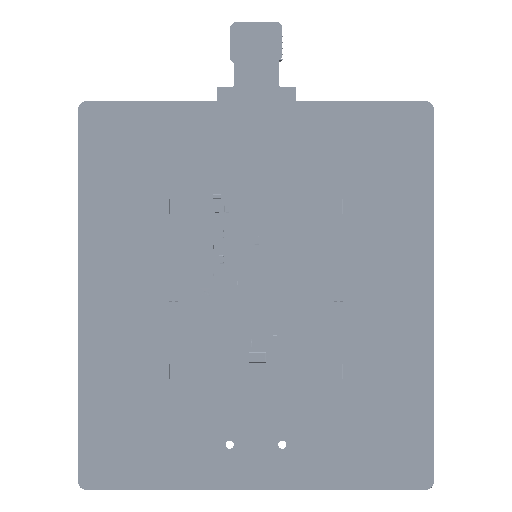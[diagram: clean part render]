
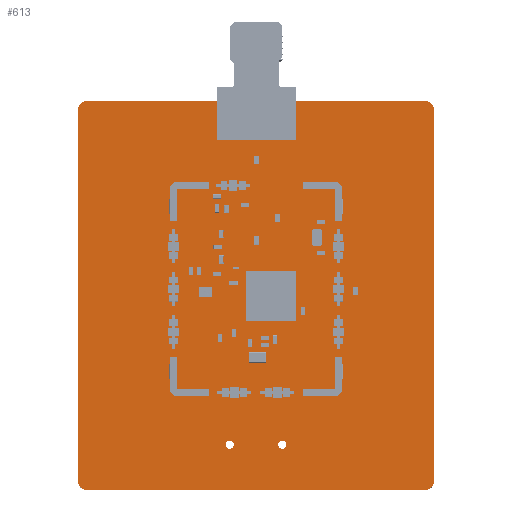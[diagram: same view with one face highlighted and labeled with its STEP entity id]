
A CAD part, top view. The second image highlights one B-rep face of the part: STEP entity #613.
In plain terms, the highlighted planar face has unit normal (0, 0, 1).
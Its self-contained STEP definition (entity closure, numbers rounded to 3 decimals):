
#276 = VERTEX_POINT('',#277);
#277 = CARTESIAN_POINT('',(0.,1.,1.56));
#283 = EDGE_CURVE('',#276,#284,#286,.T.);
#284 = VERTEX_POINT('',#285);
#285 = CARTESIAN_POINT('',(1.,0.,1.56));
#286 = CIRCLE('',#287,1.);
#287 = AXIS2_PLACEMENT_3D('',#288,#289,#290);
#288 = CARTESIAN_POINT('',(1.,1.,1.56));
#289 = DIRECTION('',(0.,0.,1.));
#290 = DIRECTION('',(-1.,0.,0.));
#316 = EDGE_CURVE('',#284,#317,#319,.T.);
#317 = VERTEX_POINT('',#318);
#318 = CARTESIAN_POINT('',(42.,0.,1.56));
#319 = LINE('',#320,#321);
#320 = CARTESIAN_POINT('',(1.,0.,1.56));
#321 = VECTOR('',#322,1.);
#322 = DIRECTION('',(1.,0.,0.));
#347 = EDGE_CURVE('',#317,#348,#350,.T.);
#348 = VERTEX_POINT('',#349);
#349 = CARTESIAN_POINT('',(43.,1.,1.56));
#350 = CIRCLE('',#351,1.);
#351 = AXIS2_PLACEMENT_3D('',#352,#353,#354);
#352 = CARTESIAN_POINT('',(42.,1.,1.56));
#353 = DIRECTION('',(0.,0.,1.));
#354 = DIRECTION('',(0.,-1.,0.));
#380 = EDGE_CURVE('',#348,#381,#383,.T.);
#381 = VERTEX_POINT('',#382);
#382 = CARTESIAN_POINT('',(43.,46.,1.56));
#383 = LINE('',#384,#385);
#384 = CARTESIAN_POINT('',(43.,1.,1.56));
#385 = VECTOR('',#386,1.);
#386 = DIRECTION('',(0.,1.,0.));
#411 = EDGE_CURVE('',#381,#412,#414,.T.);
#412 = VERTEX_POINT('',#413);
#413 = CARTESIAN_POINT('',(42.,47.,1.56));
#414 = CIRCLE('',#415,1.);
#415 = AXIS2_PLACEMENT_3D('',#416,#417,#418);
#416 = CARTESIAN_POINT('',(42.,46.,1.56));
#417 = DIRECTION('',(0.,0.,1.));
#418 = DIRECTION('',(1.,0.,-0.));
#444 = EDGE_CURVE('',#412,#445,#447,.T.);
#445 = VERTEX_POINT('',#446);
#446 = CARTESIAN_POINT('',(1.,47.,1.56));
#447 = LINE('',#448,#449);
#448 = CARTESIAN_POINT('',(42.,47.,1.56));
#449 = VECTOR('',#450,1.);
#450 = DIRECTION('',(-1.,0.,0.));
#475 = EDGE_CURVE('',#445,#476,#478,.T.);
#476 = VERTEX_POINT('',#477);
#477 = CARTESIAN_POINT('',(0.,46.,1.56));
#478 = CIRCLE('',#479,1.);
#479 = AXIS2_PLACEMENT_3D('',#480,#481,#482);
#480 = CARTESIAN_POINT('',(1.,46.,1.56));
#481 = DIRECTION('',(0.,0.,1.));
#482 = DIRECTION('',(0.,1.,0.));
#508 = EDGE_CURVE('',#476,#276,#509,.T.);
#509 = LINE('',#510,#511);
#510 = CARTESIAN_POINT('',(0.,46.,1.56));
#511 = VECTOR('',#512,1.);
#512 = DIRECTION('',(0.,-1.,0.));
#532 = VERTEX_POINT('',#533);
#533 = CARTESIAN_POINT('',(18.825,5.465,1.56));
#539 = EDGE_CURVE('',#532,#532,#540,.T.);
#540 = CIRCLE('',#541,0.5);
#541 = AXIS2_PLACEMENT_3D('',#542,#543,#544);
#542 = CARTESIAN_POINT('',(18.325,5.465,1.56));
#543 = DIRECTION('',(0.,0.,1.));
#544 = DIRECTION('',(1.,0.,-0.));
#565 = VERTEX_POINT('',#566);
#566 = CARTESIAN_POINT('',(25.175,5.465,1.56));
#572 = EDGE_CURVE('',#565,#565,#573,.T.);
#573 = CIRCLE('',#574,0.5);
#574 = AXIS2_PLACEMENT_3D('',#575,#576,#577);
#575 = CARTESIAN_POINT('',(24.675,5.465,1.56));
#576 = DIRECTION('',(0.,0.,1.));
#577 = DIRECTION('',(1.,0.,-0.));
#613 = ADVANCED_FACE('',(#614,#624,#627),#630,.T.);
#614 = FACE_BOUND('',#615,.T.);
#615 = EDGE_LOOP('',(#616,#617,#618,#619,#620,#621,#622,#623));
#616 = ORIENTED_EDGE('',*,*,#283,.T.);
#617 = ORIENTED_EDGE('',*,*,#316,.T.);
#618 = ORIENTED_EDGE('',*,*,#347,.T.);
#619 = ORIENTED_EDGE('',*,*,#380,.T.);
#620 = ORIENTED_EDGE('',*,*,#411,.T.);
#621 = ORIENTED_EDGE('',*,*,#444,.T.);
#622 = ORIENTED_EDGE('',*,*,#475,.T.);
#623 = ORIENTED_EDGE('',*,*,#508,.T.);
#624 = FACE_BOUND('',#625,.T.);
#625 = EDGE_LOOP('',(#626));
#626 = ORIENTED_EDGE('',*,*,#539,.F.);
#627 = FACE_BOUND('',#628,.T.);
#628 = EDGE_LOOP('',(#629));
#629 = ORIENTED_EDGE('',*,*,#572,.F.);
#630 = PLANE('',#631);
#631 = AXIS2_PLACEMENT_3D('',#632,#633,#634);
#632 = CARTESIAN_POINT('',(21.5,23.5,1.56));
#633 = DIRECTION('',(0.,0.,1.));
#634 = DIRECTION('',(1.,0.,-0.));
